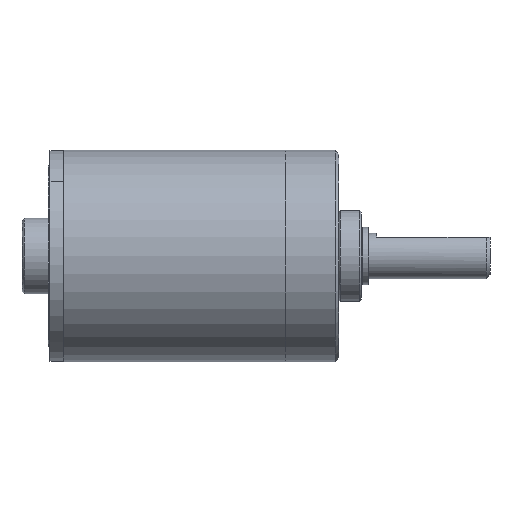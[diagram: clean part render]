
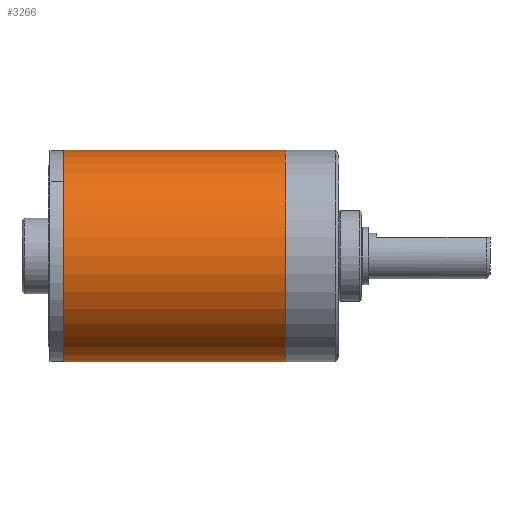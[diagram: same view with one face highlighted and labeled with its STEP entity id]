
A CAD part, top view. The second image highlights one B-rep face of the part: STEP entity #3266.
In plain terms, the highlighted cylindrical face has radius 13.975 mm (diameter 27.95 mm), a partial arc.
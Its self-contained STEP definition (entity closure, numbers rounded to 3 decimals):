
#3054=CARTESIAN_POINT('',(0.,0.,0.));
#3055=DIRECTION('',(-1.,0.,0.));
#3056=DIRECTION('',(0.,1.,0.));
#3057=AXIS2_PLACEMENT_3D('',#3054,#3055,#3056);
#3086=CARTESIAN_POINT('',(29.35,0.,0.));
#3087=DIRECTION('',(-1.,0.,0.));
#3088=DIRECTION('',(0.,1.,0.));
#3089=AXIS2_PLACEMENT_3D('',#3086,#3087,#3088);
#3094=DIRECTION('',(-1.,0.,0.));
#3095=VECTOR('',#3094,29.35);
#3096=CARTESIAN_POINT('',(29.35,13.975,0.));
#3097=LINE('',#3096,#3095);
#3109=DIRECTION('',(-1.,0.,0.));
#3110=VECTOR('',#3109,29.35);
#3111=CARTESIAN_POINT('',(29.35,-13.975,0.));
#3112=LINE('',#3111,#3110);
#3210=CARTESIAN_POINT('',(29.35,13.975,0.));
#3211=CARTESIAN_POINT('',(0.,13.975,0.));
#3212=VERTEX_POINT('',#3210);
#3213=VERTEX_POINT('',#3211);
#3214=CARTESIAN_POINT('',(29.35,-13.975,0.));
#3215=CARTESIAN_POINT('',(0.,-13.975,0.));
#3216=VERTEX_POINT('',#3214);
#3217=VERTEX_POINT('',#3215);
#3252=CARTESIAN_POINT('',(30.818,0.,0.));
#3253=DIRECTION('',(-1.,0.,0.));
#3254=DIRECTION('',(0.,1.,0.));
#3255=AXIS2_PLACEMENT_3D('',#3252,#3253,#3254);
#3256=CYLINDRICAL_SURFACE('',#3255,13.975);
#3258=ORIENTED_EDGE('',*,*,#3257,.T.);
#3259=ORIENTED_EDGE('',*,*,#3239,.T.);
#3261=ORIENTED_EDGE('',*,*,#3260,.F.);
#3263=ORIENTED_EDGE('',*,*,#3262,.F.);
#3264=EDGE_LOOP('',(#3258,#3259,#3261,#3263));
#3265=FACE_OUTER_BOUND('',#3264,.F.);
#3058=CIRCLE('',#3057,13.975);
#3090=CIRCLE('',#3089,13.975);
#3239=EDGE_CURVE('',#3213,#3217,#3058,.T.);
#3257=EDGE_CURVE('',#3212,#3213,#3097,.T.);
#3260=EDGE_CURVE('',#3216,#3217,#3112,.T.);
#3262=EDGE_CURVE('',#3212,#3216,#3090,.T.);
#3266=ADVANCED_FACE('',(#3265),#3256,.T.);
